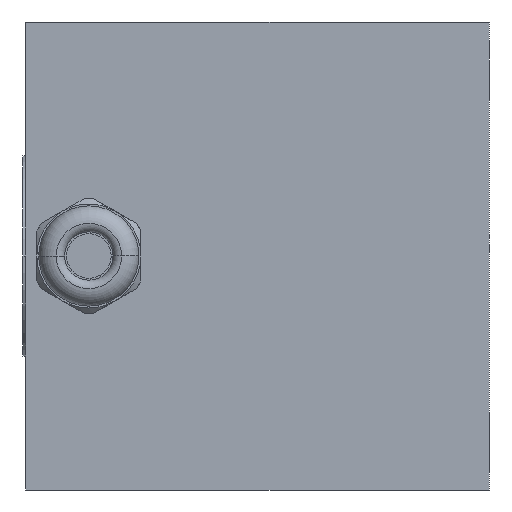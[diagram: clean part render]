
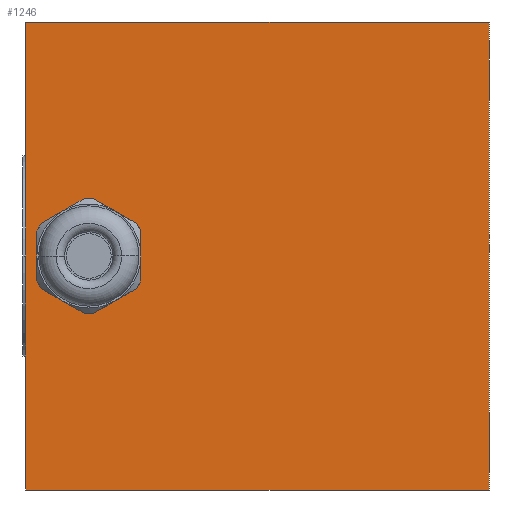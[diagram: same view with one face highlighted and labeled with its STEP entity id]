
A CAD part, left-side view. The second image highlights one B-rep face of the part: STEP entity #1246.
In plain terms, the highlighted planar face has unit normal (-1, 0, 0).
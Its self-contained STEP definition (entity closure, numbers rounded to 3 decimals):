
#44=DIRECTION('',(0.,-1.,0.));
#45=VECTOR('',#44,62.4);
#46=CARTESIAN_POINT('',(-94.,31.2,-31.5));
#47=LINE('',#46,#45);
#100=DIRECTION('',(0.,0.,1.));
#101=VECTOR('',#100,63.);
#102=CARTESIAN_POINT('',(-94.,-31.2,-31.5));
#103=LINE('',#102,#101);
#212=DIRECTION('',(0.,0.,1.));
#213=VECTOR('',#212,63.);
#214=CARTESIAN_POINT('',(-94.,31.2,-31.5));
#215=LINE('',#214,#213);
#216=CARTESIAN_POINT('',(-94.,22.7,0.));
#217=DIRECTION('',(-1.,0.,0.));
#218=DIRECTION('',(0.,1.,0.));
#219=AXIS2_PLACEMENT_3D('',#216,#217,#218);
#221=CARTESIAN_POINT('',(-94.,22.7,0.));
#222=DIRECTION('',(-1.,0.,0.));
#223=DIRECTION('',(0.,-1.,0.));
#224=AXIS2_PLACEMENT_3D('',#221,#222,#223);
#676=DIRECTION('',(0.,-1.,0.));
#677=VECTOR('',#676,62.4);
#678=CARTESIAN_POINT('',(-94.,31.2,31.5));
#679=LINE('',#678,#677);
#734=CARTESIAN_POINT('',(-94.,31.2,-31.5));
#735=CARTESIAN_POINT('',(-94.,-31.2,-31.5));
#736=VERTEX_POINT('',#734);
#737=VERTEX_POINT('',#735);
#742=CARTESIAN_POINT('',(-94.,31.2,31.5));
#743=CARTESIAN_POINT('',(-94.,-31.2,31.5));
#744=VERTEX_POINT('',#742);
#745=VERTEX_POINT('',#743);
#891=CARTESIAN_POINT('',(-94.,27.2,0.));
#893=VERTEX_POINT('',#891);
#895=CARTESIAN_POINT('',(-94.,18.2,0.));
#897=VERTEX_POINT('',#895);
#1227=CARTESIAN_POINT('',(-94.,31.2,-31.5));
#1228=DIRECTION('',(-1.,0.,0.));
#1229=DIRECTION('',(0.,-1.,0.));
#1230=AXIS2_PLACEMENT_3D('',#1227,#1228,#1229);
#1231=PLANE('',#1230);
#1232=ORIENTED_EDGE('',*,*,#944,.F.);
#1234=ORIENTED_EDGE('',*,*,#1233,.T.);
#1236=ORIENTED_EDGE('',*,*,#1235,.T.);
#1237=ORIENTED_EDGE('',*,*,#973,.F.);
#1238=EDGE_LOOP('',(#1232,#1234,#1236,#1237));
#1239=FACE_OUTER_BOUND('',#1238,.F.);
#1241=ORIENTED_EDGE('',*,*,#1240,.T.);
#1243=ORIENTED_EDGE('',*,*,#1242,.T.);
#1244=EDGE_LOOP('',(#1241,#1243));
#1245=FACE_BOUND('',#1244,.F.);
#1246=ADVANCED_FACE('',(#1239,#1245),#1231,.T.);
#220=CIRCLE('',#219,4.5);
#225=CIRCLE('',#224,4.5);
#944=EDGE_CURVE('',#736,#737,#47,.T.);
#973=EDGE_CURVE('',#737,#745,#103,.T.);
#1233=EDGE_CURVE('',#736,#744,#215,.T.);
#1235=EDGE_CURVE('',#744,#745,#679,.T.);
#1240=EDGE_CURVE('',#893,#897,#220,.T.);
#1242=EDGE_CURVE('',#897,#893,#225,.T.);
